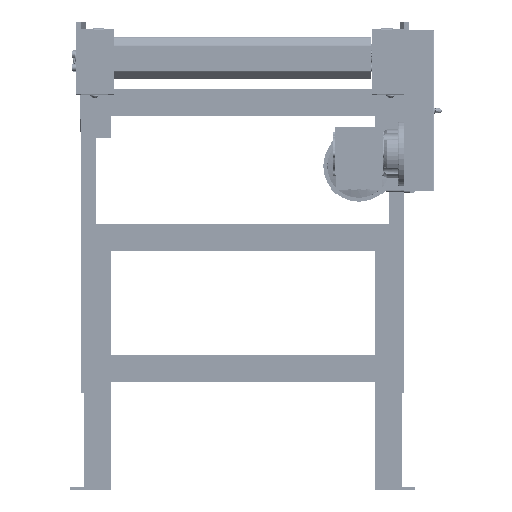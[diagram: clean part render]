
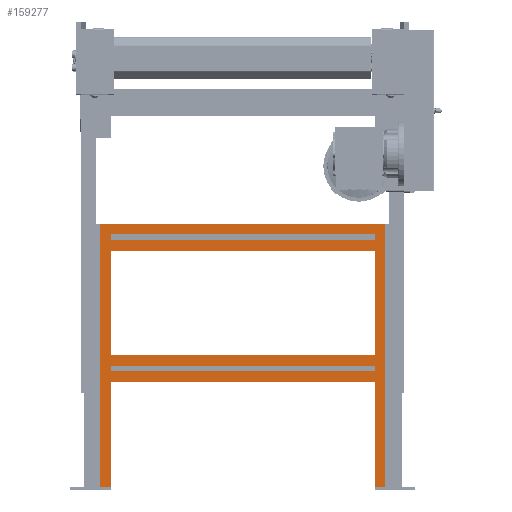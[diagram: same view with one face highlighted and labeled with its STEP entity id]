
A CAD part, front view. The second image highlights one B-rep face of the part: STEP entity #159277.
In plain terms, the highlighted planar face has unit normal (0, -1, 0).
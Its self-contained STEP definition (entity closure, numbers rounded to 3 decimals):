
#5236=FACE_BOUND('',#26943,.T.);
#5237=FACE_BOUND('',#26944,.T.);
#5238=FACE_BOUND('',#26945,.T.);
#18785=FACE_OUTER_BOUND('',#26942,.T.);
#26942=EDGE_LOOP('',(#103829,#103830,#103831,#103832,#103833,#103834,#103835,
#103836));
#26943=EDGE_LOOP('',(#103837,#103838,#103839,#103840));
#26944=EDGE_LOOP('',(#103841,#103842,#103843,#103844));
#26945=EDGE_LOOP('',(#103845,#103846,#103847,#103848));
#38438=LINE('',#237594,#50264);
#38598=LINE('',#237924,#50424);
#38604=LINE('',#237938,#50430);
#38620=LINE('',#237971,#50446);
#38644=LINE('',#238022,#50470);
#38756=LINE('',#238245,#50582);
#38783=LINE('',#238298,#50609);
#38934=LINE('',#238594,#50760);
#38946=LINE('',#238618,#50772);
#38949=LINE('',#238624,#50775);
#38996=LINE('',#238717,#50822);
#39000=LINE('',#238725,#50826);
#39003=LINE('',#238730,#50829);
#39012=LINE('',#238745,#50838);
#39023=LINE('',#238767,#50849);
#39035=LINE('',#238791,#50861);
#39077=LINE('',#238872,#50903);
#39081=LINE('',#238879,#50907);
#39168=LINE('',#239045,#50994);
#39169=LINE('',#239047,#50995);
#50264=VECTOR('',#188008,19.95);
#50424=VECTOR('',#188270,194.5);
#50430=VECTOR('',#188280,10.1);
#50446=VECTOR('',#188300,194.5);
#50470=VECTOR('',#188334,10.1);
#50582=VECTOR('',#188510,489.);
#50609=VECTOR('',#188557,19.95);
#50760=VECTOR('',#188856,491.);
#50772=VECTOR('',#188880,491.);
#50775=VECTOR('',#188885,491.);
#50822=VECTOR('',#188972,491.);
#50826=VECTOR('',#188982,194.5);
#50829=VECTOR('',#188987,10.1);
#50838=VECTOR('',#189004,194.5);
#50849=VECTOR('',#189021,491.);
#50861=VECTOR('',#189045,491.);
#50903=VECTOR('',#189125,491.);
#50907=VECTOR('',#189135,10.1);
#50994=VECTOR('',#189302,489.);
#50995=VECTOR('',#189305,530.9);
#61601=VERTEX_POINT('',#237592);
#61602=VERTEX_POINT('',#237593);
#61718=VERTEX_POINT('',#237917);
#61721=VERTEX_POINT('',#237922);
#61726=VERTEX_POINT('',#237935);
#61727=VERTEX_POINT('',#237937);
#61741=VERTEX_POINT('',#237968);
#61742=VERTEX_POINT('',#237970);
#61762=VERTEX_POINT('',#238018);
#61764=VERTEX_POINT('',#238021);
#61842=VERTEX_POINT('',#238241);
#61843=VERTEX_POINT('',#238243);
#61930=VERTEX_POINT('',#238591);
#61936=VERTEX_POINT('',#238616);
#61938=VERTEX_POINT('',#238621);
#61963=VERTEX_POINT('',#238714);
#61965=VERTEX_POINT('',#238724);
#61976=VERTEX_POINT('',#238764);
#61982=VERTEX_POINT('',#238789);
#62041=VERTEX_POINT('',#239043);
#77655=EDGE_CURVE('',#61601,#61602,#38438,.T.);
#77825=EDGE_CURVE('',#61718,#61721,#38598,.T.);
#77831=EDGE_CURVE('',#61727,#61726,#38604,.T.);
#77847=EDGE_CURVE('',#61742,#61741,#38620,.T.);
#77871=EDGE_CURVE('',#61764,#61762,#38644,.T.);
#77983=EDGE_CURVE('',#61843,#61842,#38756,.T.);
#78010=EDGE_CURVE('',#61843,#61742,#38783,.T.);
#78163=EDGE_CURVE('',#61727,#61930,#38934,.T.);
#78175=EDGE_CURVE('',#61726,#61936,#38946,.T.);
#78178=EDGE_CURVE('',#61718,#61938,#38949,.T.);
#78225=EDGE_CURVE('',#61741,#61963,#38996,.T.);
#78229=EDGE_CURVE('',#61938,#61965,#39000,.T.);
#78232=EDGE_CURVE('',#61930,#61936,#39003,.T.);
#78241=EDGE_CURVE('',#61602,#61963,#39012,.T.);
#78252=EDGE_CURVE('',#61764,#61976,#39023,.T.);
#78264=EDGE_CURVE('',#61762,#61982,#39035,.T.);
#78306=EDGE_CURVE('',#61721,#61965,#39077,.T.);
#78310=EDGE_CURVE('',#61976,#61982,#39081,.T.);
#78397=EDGE_CURVE('',#61601,#62041,#39168,.T.);
#78398=EDGE_CURVE('',#61842,#62041,#39169,.T.);
#103829=ORIENTED_EDGE('',*,*,#78225,.T.);
#103830=ORIENTED_EDGE('',*,*,#78241,.F.);
#103831=ORIENTED_EDGE('',*,*,#77655,.F.);
#103832=ORIENTED_EDGE('',*,*,#78397,.T.);
#103833=ORIENTED_EDGE('',*,*,#78398,.F.);
#103834=ORIENTED_EDGE('',*,*,#77983,.F.);
#103835=ORIENTED_EDGE('',*,*,#78010,.T.);
#103836=ORIENTED_EDGE('',*,*,#77847,.T.);
#103837=ORIENTED_EDGE('',*,*,#78175,.T.);
#103838=ORIENTED_EDGE('',*,*,#78232,.F.);
#103839=ORIENTED_EDGE('',*,*,#78163,.F.);
#103840=ORIENTED_EDGE('',*,*,#77831,.T.);
#103841=ORIENTED_EDGE('',*,*,#78264,.T.);
#103842=ORIENTED_EDGE('',*,*,#78310,.F.);
#103843=ORIENTED_EDGE('',*,*,#78252,.F.);
#103844=ORIENTED_EDGE('',*,*,#77871,.T.);
#103845=ORIENTED_EDGE('',*,*,#78178,.F.);
#103846=ORIENTED_EDGE('',*,*,#77825,.T.);
#103847=ORIENTED_EDGE('',*,*,#78306,.T.);
#103848=ORIENTED_EDGE('',*,*,#78229,.F.);
#146981=PLANE('',#167460);
#159277=ADVANCED_FACE('',(#18785,#5236,#5237,#5238),#146981,.T.);
#167460=AXIS2_PLACEMENT_3D('',#239046,#189303,#189304);
#188008=DIRECTION('',(-1.,0.,0.));
#188270=DIRECTION('',(0.,0.,1.));
#188280=DIRECTION('',(0.,0.,1.));
#188300=DIRECTION('',(0.,0.,1.));
#188334=DIRECTION('',(0.,0.,1.));
#188510=DIRECTION('',(0.,0.,1.));
#188557=DIRECTION('',(1.,0.,0.));
#188856=DIRECTION('',(1.,0.,0.));
#188880=DIRECTION('',(1.,0.,0.));
#188885=DIRECTION('',(1.,0.,0.));
#188972=DIRECTION('',(1.,0.,0.));
#188982=DIRECTION('',(0.,0.,1.));
#188987=DIRECTION('',(0.,0.,1.));
#189004=DIRECTION('',(0.,0.,1.));
#189021=DIRECTION('',(1.,0.,0.));
#189045=DIRECTION('',(1.,0.,0.));
#189125=DIRECTION('',(1.,0.,0.));
#189135=DIRECTION('',(0.,0.,1.));
#189302=DIRECTION('',(0.,0.,1.));
#189303=DIRECTION('center_axis',(0.,-1.,0.));
#189304=DIRECTION('ref_axis',(0.,0.,-1.));
#189305=DIRECTION('',(1.,0.,0.));
#237592=CARTESIAN_POINT('',(265.45,-345.,6.));
#237593=CARTESIAN_POINT('',(245.5,-345.,6.));
#237594=CARTESIAN_POINT('',(274.225,-345.,6.));
#237917=CARTESIAN_POINT('',(-245.5,-345.,250.5));
#237922=CARTESIAN_POINT('',(-245.5,-345.,445.));
#237924=CARTESIAN_POINT('',(-245.5,-345.,6.));
#237935=CARTESIAN_POINT('',(-245.5,-345.,230.55));
#237937=CARTESIAN_POINT('',(-245.5,-345.,220.45));
#237938=CARTESIAN_POINT('',(-245.5,-345.,6.));
#237968=CARTESIAN_POINT('',(-245.5,-345.,200.5));
#237970=CARTESIAN_POINT('',(-245.5,-345.,6.));
#237971=CARTESIAN_POINT('',(-245.5,-345.,6.));
#238018=CARTESIAN_POINT('',(-245.5,-345.,475.05));
#238021=CARTESIAN_POINT('',(-245.5,-345.,464.95));
#238022=CARTESIAN_POINT('',(-245.5,-345.,6.));
#238241=CARTESIAN_POINT('',(-265.45,-345.,495.));
#238243=CARTESIAN_POINT('',(-265.45,-345.,6.));
#238245=CARTESIAN_POINT('',(-265.45,-345.,6.));
#238298=CARTESIAN_POINT('',(-274.225,-345.,6.));
#238591=CARTESIAN_POINT('',(245.5,-345.,220.45));
#238594=CARTESIAN_POINT('',(0.,-345.,220.45));
#238616=CARTESIAN_POINT('',(245.5,-345.,230.55));
#238618=CARTESIAN_POINT('',(0.,-345.,230.55));
#238621=CARTESIAN_POINT('',(245.5,-345.,250.5));
#238624=CARTESIAN_POINT('',(0.,-345.,250.5));
#238714=CARTESIAN_POINT('',(245.5,-345.,200.5));
#238717=CARTESIAN_POINT('',(0.,-345.,200.5));
#238724=CARTESIAN_POINT('',(245.5,-345.,445.));
#238725=CARTESIAN_POINT('',(245.5,-345.,6.));
#238730=CARTESIAN_POINT('',(245.5,-345.,6.));
#238745=CARTESIAN_POINT('',(245.5,-345.,6.));
#238764=CARTESIAN_POINT('',(245.5,-345.,464.95));
#238767=CARTESIAN_POINT('',(0.,-345.,464.95));
#238789=CARTESIAN_POINT('',(245.5,-345.,475.05));
#238791=CARTESIAN_POINT('',(0.,-345.,475.05));
#238872=CARTESIAN_POINT('',(0.,-345.,445.));
#238879=CARTESIAN_POINT('',(245.5,-345.,6.));
#239043=CARTESIAN_POINT('',(265.45,-345.,495.));
#239045=CARTESIAN_POINT('',(265.45,-345.,6.));
#239046=CARTESIAN_POINT('Origin',(265.45,-345.,6.));
#239047=CARTESIAN_POINT('',(0.,-345.,495.));
